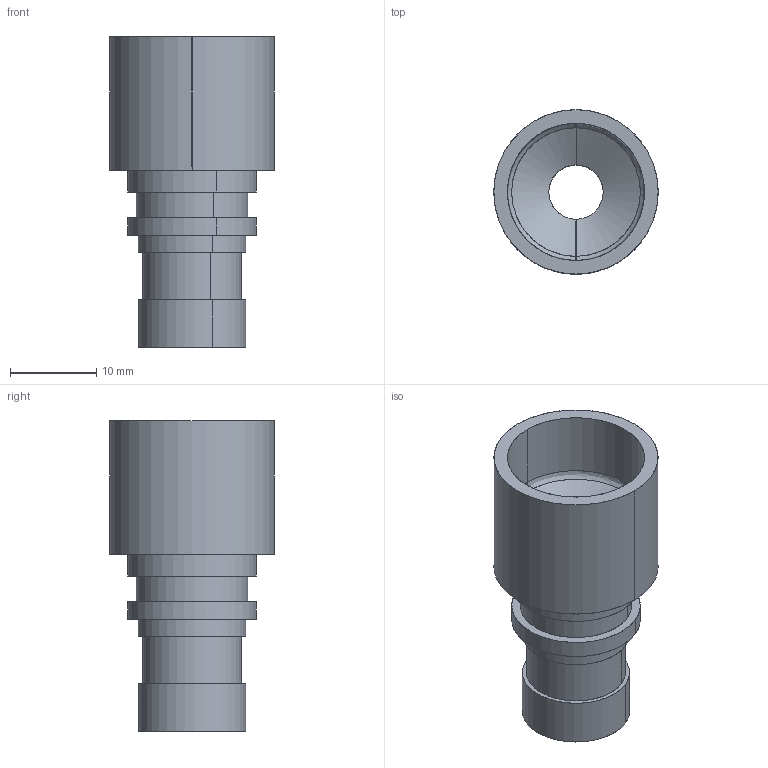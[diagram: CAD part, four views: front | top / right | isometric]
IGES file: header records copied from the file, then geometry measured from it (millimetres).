
Start section: SolidWorks IGES file using analytic representation for surfaces
Global section: file name: 9.5^70-仩R19.05-PH.IGS,; native system: SolidWorks 2012; preprocessor: SolidWorks 2012; author: harada; date: 130902.114850; units: millimetre
Bounding box: 19.05 x 19.05 x 36 mm (x, y, z)
Surface area: 3368.8 mm2 (no closed solid volume)
Topology: 0 solids, 0 shells, 33 faces, 676 edges, 676 vertices
Faces by surface type: revolution 22, bspline 11
